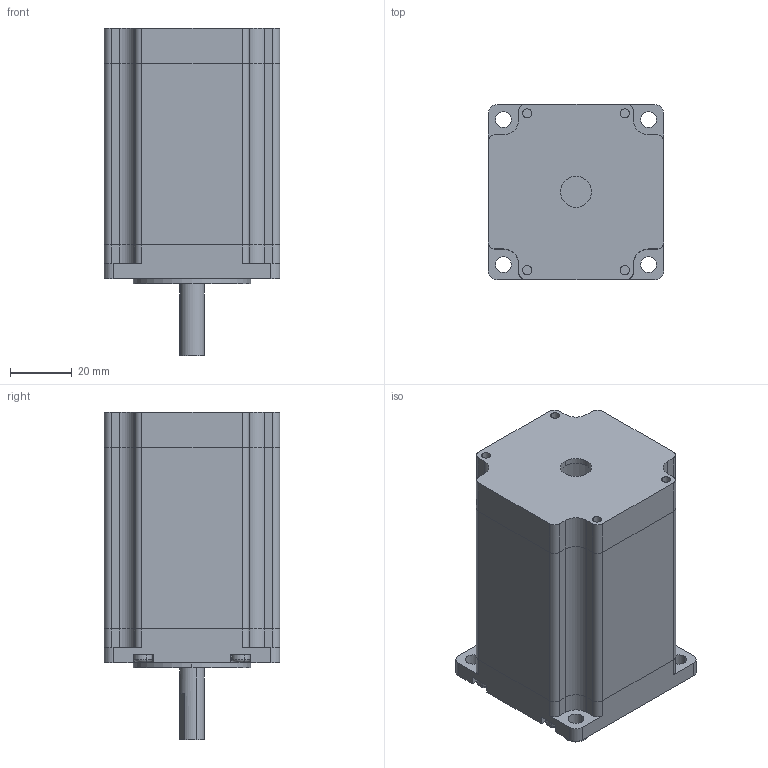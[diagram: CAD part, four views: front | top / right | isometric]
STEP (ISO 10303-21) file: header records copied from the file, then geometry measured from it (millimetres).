
FILE_DESCRIPTION (( 'STEP AP214' ), '1' );
FILE_NAME ('JK57H3P79-5203-03F.STEP', '2020-10-07T05:48:50', ( 'user' ), ( 'CHINA' ), 'SwSTEP 2.0', 'SolidWorks 2016', '' );
FILE_SCHEMA (( 'AUTOMOTIVE_DESIGN' ));
Length unit declared in the file: millimetre
Products named in the file (6): 57-59 隅赽; 8｡ﾁ25-7.5｡ﾁ15; M3｡ﾁ35; JK.006.057.001F; JK.006.057.001B; JK57H3P79-5203-03F
Assembly tree (8 placements, depth 2):
  JK57H3P79-5203-03F
    JK.006.057.001B
    JK.006.057.001F
    M3｡ﾁ35  x4
    8｡ﾁ25-7.5｡ﾁ15
    57-59 隅赽
Bounding box: 57 x 57 x 106.4 mm (x, y, z)
Volume: 154747.7 mm3; surface area: 52269.8 mm2
Topology: 8 solids, 8 shells, 854 faces, 2424 edges, 1604 vertices
Faces by surface type: cylinder 674, plane 160, bspline 12, torus 8
Entity records: 19040 total; most frequent: CARTESIAN_POINT 10388, ORIENTED_EDGE 1950, DIRECTION 1611, EDGE_CURVE 975, VERTEX_POINT 647, AXIS2_PLACEMENT_3D 561, VECTOR 489, LINE 489
